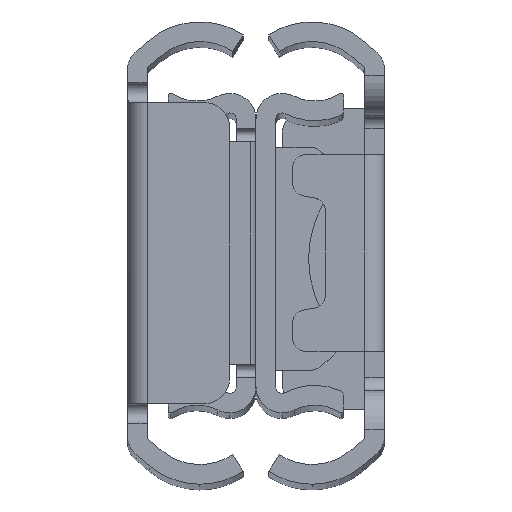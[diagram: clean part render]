
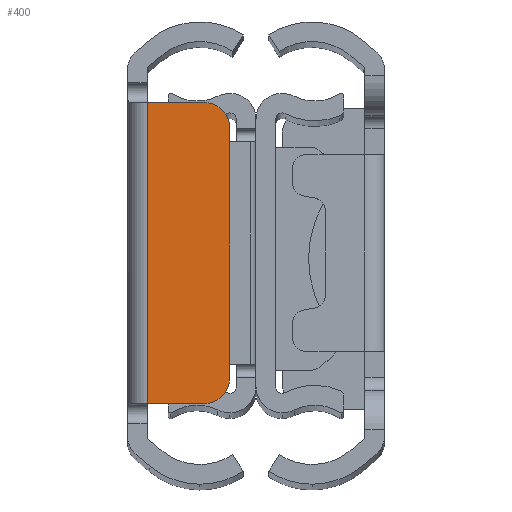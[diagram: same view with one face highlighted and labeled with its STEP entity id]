
A CAD part, top view. The second image highlights one B-rep face of the part: STEP entity #400.
In plain terms, the highlighted planar face has unit normal (0, 0, 1) as drawn and (0, 0, -1) by its records, which use the part's own axes.
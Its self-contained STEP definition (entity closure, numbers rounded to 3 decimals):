
#158 = VERTEX_POINT ( 'NONE', #4056 ) ;
#309 = DIRECTION ( 'NONE',  ( 0., 1., 0. ) ) ;
#395 = VECTOR ( 'NONE', #2619, 1000. ) ;
#400 = ADVANCED_FACE ( 'NONE', ( #3592 ), #2827, .F. ) ;
#403 = CARTESIAN_POINT ( 'NONE',  ( 213.8, -11.5, 254. ) ) ;
#658 = EDGE_CURVE ( 'NONE', #158, #772, #4593, .T. ) ;
#711 = CARTESIAN_POINT ( 'NONE',  ( 219.6, -11.5, 254. ) ) ;
#732 = CARTESIAN_POINT ( 'NONE',  ( 218.1, -11.5, 254. ) ) ;
#745 = DIRECTION ( 'NONE',  ( 0., 0., 1. ) ) ;
#763 = CARTESIAN_POINT ( 'NONE',  ( 211.8, -11.5, 254. ) ) ;
#772 = VERTEX_POINT ( 'NONE', #4014 ) ;
#814 = DIRECTION ( 'NONE',  ( -1., 0., 0. ) ) ;
#955 = EDGE_LOOP ( 'NONE', ( #3779, #4709, #3240, #2569, #2579, #2155 ) ) ;
#999 = CIRCLE ( 'NONE', #2048, 2. ) ;
#1084 = AXIS2_PLACEMENT_3D ( 'NONE', #3274, #2954, #4497 ) ;
#1138 = LINE ( 'NONE', #763, #3931 ) ;
#1146 = EDGE_CURVE ( 'NONE', #2617, #3152, #1138, .T. ) ;
#1346 = CARTESIAN_POINT ( 'NONE',  ( 211.8, -9.5, 254. ) ) ;
#1839 = EDGE_CURVE ( 'NONE', #3641, #3543, #4461, .T. ) ;
#2048 = AXIS2_PLACEMENT_3D ( 'NONE', #3395, #745, #2276 ) ;
#2155 = ORIENTED_EDGE ( 'NONE', *, *, #3102, .F. ) ;
#2276 = DIRECTION ( 'NONE',  ( 0., -1., 0. ) ) ;
#2294 = DIRECTION ( 'NONE',  ( 0., -1., 0. ) ) ;
#2569 = ORIENTED_EDGE ( 'NONE', *, *, #4535, .F. ) ;
#2579 = ORIENTED_EDGE ( 'NONE', *, *, #1146, .F. ) ;
#2617 = VERTEX_POINT ( 'NONE', #4810 ) ;
#2619 = DIRECTION ( 'NONE',  ( 1., 0., 0. ) ) ;
#2724 = VECTOR ( 'NONE', #814, 1000. ) ;
#2827 = PLANE ( 'NONE',  #3771 ) ;
#2954 = DIRECTION ( 'NONE',  ( 0., 0., 1. ) ) ;
#2961 = CARTESIAN_POINT ( 'NONE',  ( 218.1, -13.74, 254. ) ) ;
#3102 = EDGE_CURVE ( 'NONE', #772, #2617, #4922, .T. ) ;
#3117 = CARTESIAN_POINT ( 'NONE',  ( 211.8, 11.5, 254. ) ) ;
#3152 = VERTEX_POINT ( 'NONE', #1346 ) ;
#3240 = ORIENTED_EDGE ( 'NONE', *, *, #1839, .F. ) ;
#3274 = CARTESIAN_POINT ( 'NONE',  ( 213.8, 9.5, 254. ) ) ;
#3316 = VECTOR ( 'NONE', #309, 1000. ) ;
#3395 = CARTESIAN_POINT ( 'NONE',  ( 213.8, -9.5, 254. ) ) ;
#3543 = VERTEX_POINT ( 'NONE', #732 ) ;
#3592 = FACE_OUTER_BOUND ( 'NONE', #955, .T. ) ;
#3616 = DIRECTION ( 'NONE',  ( 0., -1., 0. ) ) ;
#3641 = VERTEX_POINT ( 'NONE', #403 ) ;
#3771 = AXIS2_PLACEMENT_3D ( 'NONE', #4703, #4330, #3616 ) ;
#3779 = ORIENTED_EDGE ( 'NONE', *, *, #658, .F. ) ;
#3927 = EDGE_CURVE ( 'NONE', #3543, #158, #4456, .T. ) ;
#3931 = VECTOR ( 'NONE', #2294, 1000. ) ;
#4014 = CARTESIAN_POINT ( 'NONE',  ( 213.8, 11.5, 254. ) ) ;
#4056 = CARTESIAN_POINT ( 'NONE',  ( 218.1, 11.5, 254. ) ) ;
#4330 = DIRECTION ( 'NONE',  ( 0., 0., 1. ) ) ;
#4456 = LINE ( 'NONE', #2961, #3316 ) ;
#4461 = LINE ( 'NONE', #711, #395 ) ;
#4497 = DIRECTION ( 'NONE',  ( 0., -1., 0. ) ) ;
#4535 = EDGE_CURVE ( 'NONE', #3152, #3641, #999, .T. ) ;
#4593 = LINE ( 'NONE', #3117, #2724 ) ;
#4703 = CARTESIAN_POINT ( 'NONE',  ( 214.4, -13.74, 254. ) ) ;
#4709 = ORIENTED_EDGE ( 'NONE', *, *, #3927, .F. ) ;
#4810 = CARTESIAN_POINT ( 'NONE',  ( 211.8, 9.5, 254. ) ) ;
#4922 = CIRCLE ( 'NONE', #1084, 2. ) ;
